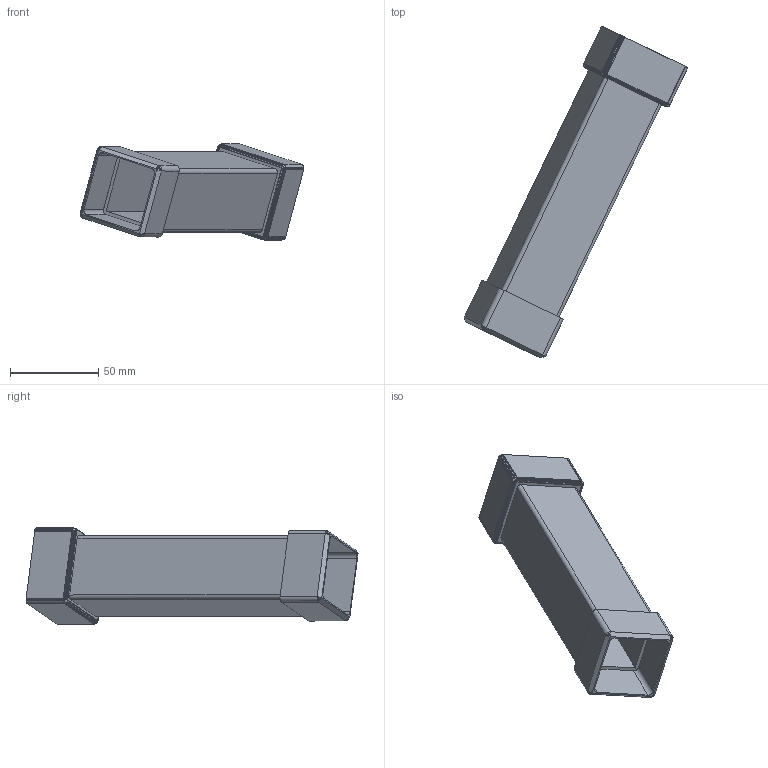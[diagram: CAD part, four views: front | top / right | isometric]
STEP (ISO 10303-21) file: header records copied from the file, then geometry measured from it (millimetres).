
FILE_DESCRIPTION(('Open CASCADE Model'),'2;1');
FILE_NAME('Open CASCADE Shape Model','2026-10-24T22:38:36',('Author'),( 'Open CASCADE'),'Open CASCADE STEP processor 7.9','Open CASCADE 7.9' ,'Unknown');
FILE_SCHEMA(('AUTOMOTIVE_DESIGN { 1 0 10303 214 1 1 1 1 }'));
Length unit declared in the file: millimetre
Products named in the file (1): Open CASCADE STEP translator 7.9 2
Bounding box: 127.16 x 188.53 x 54.55 mm (x, y, z)
Volume: 59292.4 mm3; surface area: 56020.6 mm2
Topology: 1 solids, 1 shells, 272 faces, 662 edges, 396 vertices
Faces by surface type: plane 240, bspline 16, cylinder 16
Entity records: 21109 total; most frequent: CARTESIAN_POINT 8483, DIRECTION 2046, LINE 1523, VECTOR 1523, ORIENTED_EDGE 1324, PCURVE 1324, DEFINITIONAL_REPRESENTATION 1324, EDGE_CURVE 662
